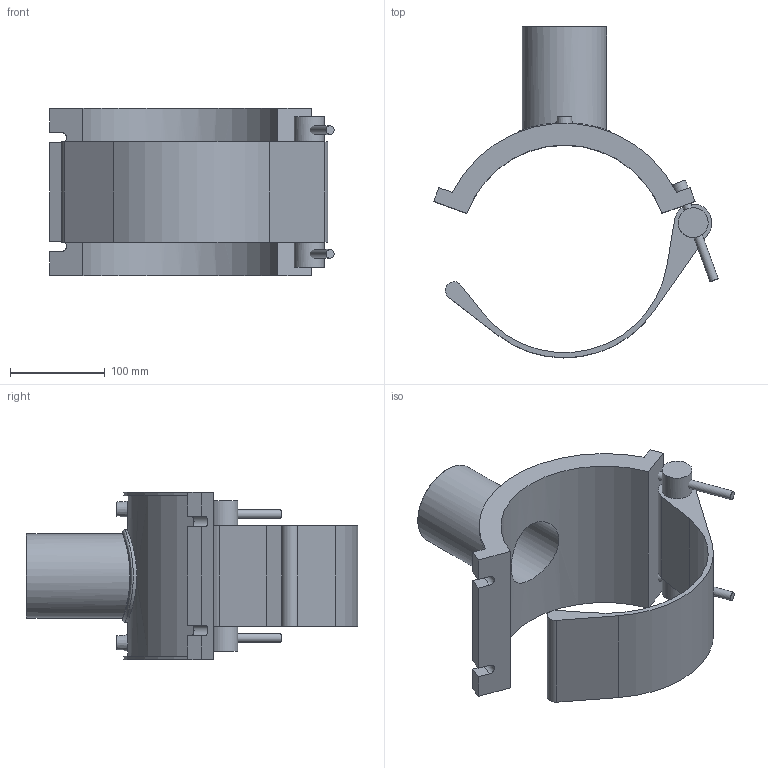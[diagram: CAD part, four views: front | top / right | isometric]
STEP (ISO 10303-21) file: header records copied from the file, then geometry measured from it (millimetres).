
FILE_DESCRIPTION(/* description */ ('PLASSON BRANCH SADDLE 8'''' x 3'''''),/* implementation_level */ '2;1');
FILE_NAME(/* name */ 'C:\Dropbox\KIMPROJECTS-Inventor 2019\99-16-3568-Processing Inch\ASTM ElectroFusion 2021\5958B-2\5958BB03080030.ipt.stp',/* time_stamp */ '2021-08-30T09:53:52+03:00',/* author */ ('KIM'),/* organization */ (''),/* preprocessor_version */ 'ST-DEVELOPER v17.2',/* originating_system */ 'Autodesk Inventor 2019',/* authorisation */ '');
FILE_SCHEMA (('AUTOMOTIVE_DESIGN { 1 0 10303 214 3 1 1 }'));
Length unit declared in the file: inch
Products named in the file (1): 5958BB03080030
Bounding box: 299.54 x 349.64 x 176.02 mm (x, y, z)
Volume: 1751691.7 mm3; surface area: 297681.5 mm2
Topology: 4 solids, 4 shells, 65 faces, 147 edges, 102 vertices
Faces by surface type: plane 37, cylinder 24, cone 3, bspline 1
Full cylindrical faces by diameter (mm): 4 x2, 9.185 x2, 10 x2, 15.309 x2, 31.493 x2, 70.96 x1, 88.7 x1, 97.57 x1
Entity records: 2297 total; most frequent: CARTESIAN_POINT 740, DIRECTION 322, ORIENTED_EDGE 294, EDGE_CURVE 147, AXIS2_PLACEMENT_3D 121, VERTEX_POINT 102, LINE 80, VECTOR 80
